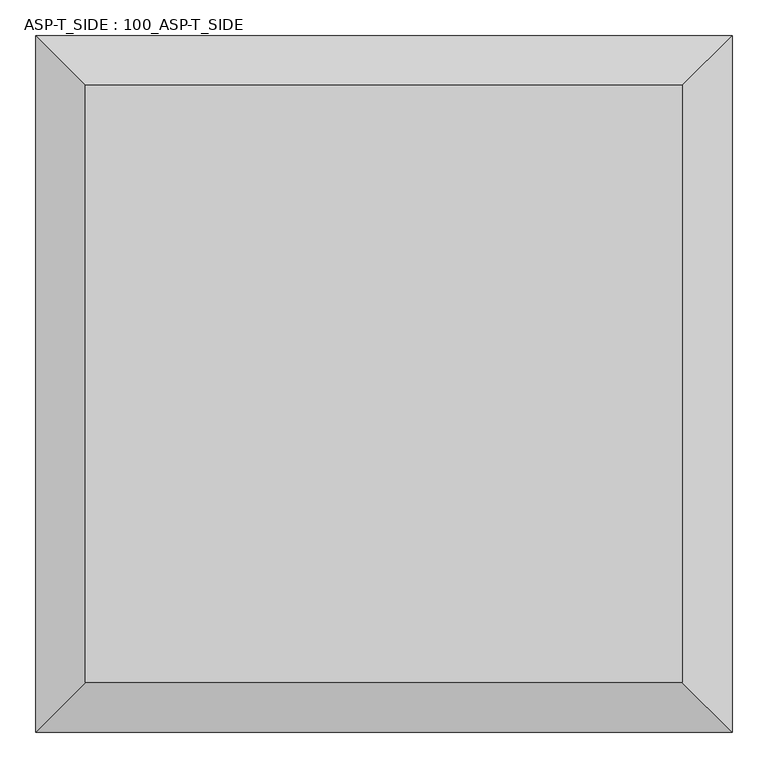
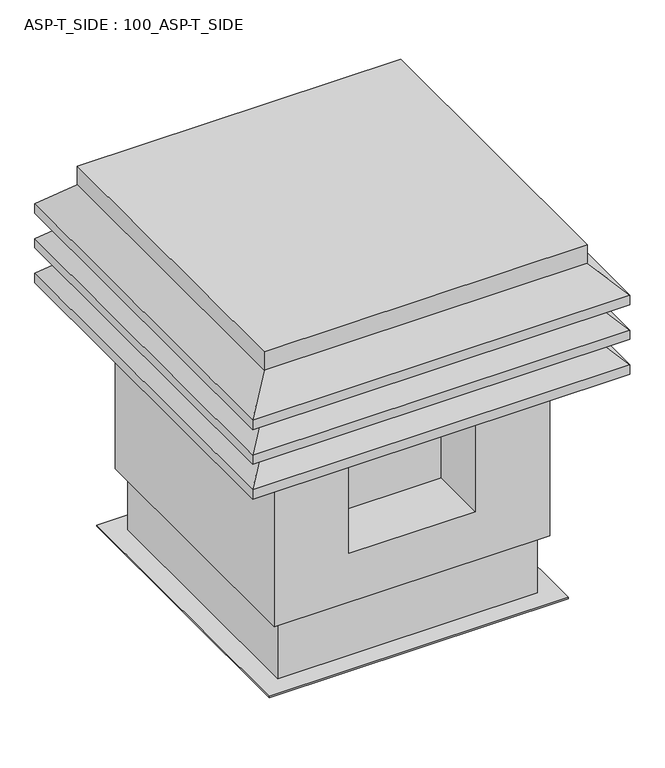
"""IFC4 building model written with IfcOpenShell, lengths in millimetres: proxy geometry, ASP-T_SIDE : 100_ASP-T_SIDE."""

from ifc_helpers import new_model, si_unit, frame, origin, place, context, project, spatial, polyline, outline, extrude, faceted_brep, source, transform, mapped, element, save


def asp_t_side_100_asp_t_side_c54fa9d1(model_context):
    return source(origin(), model_context, "Body", "SolidModel", [
        extrude(outline(polyline([(397.647472, -387.35), (-377.052528, -387.35), (-377.052528, 387.35), (397.647472, 387.35), (397.647472, -387.35)]), holes=[polyline([(-326.252528, 336.55), (-326.252528, -336.55), (346.847472, -336.55), (346.847472, 336.55), (-326.252528, 336.55)])]), frame((0.0, 0.0, -165.1), z_axis=(0.0, 0.0, 1.0), x_axis=(1.0, 0.0, 0.0)), (0.0, 0.0, 1.0), 3.175),
        extrude(outline(polyline([(-326.252528, 336.55), (346.847472, 336.55), (346.847472, -336.55), (-326.252528, -336.55), (-326.252528, 336.55)]), holes=[polyline([(308.747472, -298.45), (308.747472, 298.45), (-288.152528, 298.45), (-288.152528, -298.45), (308.747472, -298.45)])]), frame((0.0, 0.0, -165.1), z_axis=(0.0, 0.0, 1.0), x_axis=(1.0, 0.0, 0.0)), (0.0, 0.0, 1.0), 241.3),
        faceted_brep([(-408.802528, 419.1, 812.8), (-408.802528, -419.1, 812.8), (429.397472, -419.1, 812.8), (429.397472, 419.1, 812.8), (499.247472, 488.95, 476.25), (499.247472, -488.95, 476.25), (-478.652528, -488.95, 476.25), (-478.652528, 488.95, 476.25), (-478.652528, 488.95, 501.65), (499.247472, 488.95, 501.65), (499.247472, 488.95, 596.9), (499.247472, 488.95, 571.5), (-478.652528, 488.95, 571.5), (-478.652528, 488.95, 596.9), (499.247472, 488.95, 692.15), (499.247472, 488.95, 666.75), (-478.652528, 488.95, 666.75), (-478.652528, 488.95, 692.15), (-478.652528, -488.95, 501.65), (-478.652528, -488.95, 571.5), (-478.652528, -488.95, 596.9), (-478.652528, -488.95, 666.75), (-478.652528, -488.95, 692.15), (499.247472, -488.95, 501.65), (499.247472, -488.95, 571.5), (499.247472, -488.95, 596.9), (499.247472, -488.95, 666.75), (499.247472, -488.95, 692.15), (-408.802528, -419.1, 571.5), (-408.802528, 419.1, 571.5), (429.397472, -419.1, 571.5), (429.397472, 419.1, 571.5), (-408.802528, -419.1, 666.75), (-408.802528, 419.1, 666.75), (429.397472, -419.1, 666.75), (429.397472, 419.1, 666.75), (-408.802528, -419.1, 762.0), (-408.802528, 419.1, 762.0), (429.397472, -419.1, 762.0), (429.397472, 419.1, 762.0)], [[[0, 1, 2, 3]], [[4, 5, 6, 7]], [[4, 7, 8, 9]], [[10, 11, 12, 13]], [[14, 15, 16, 17]], [[7, 6, 18, 8]], [[13, 12, 19, 20]], [[17, 16, 21, 22]], [[6, 5, 23, 18]], [[20, 19, 24, 25]], [[22, 21, 26, 27]], [[5, 4, 9, 23]], [[24, 11, 10, 25]], [[26, 15, 14, 27]], [[8, 18, 28, 29]], [[12, 11, 24, 19], [28, 30, 31, 29]], [[13, 20, 32, 33]], [[16, 15, 26, 21], [32, 34, 35, 33]], [[17, 22, 36, 37]], [[1, 0, 37, 36]], [[23, 9, 31, 30]], [[25, 10, 35, 34]], [[3, 2, 38, 39]], [[27, 14, 39, 38]], [[30, 28, 18, 23]], [[34, 32, 20, 25]], [[38, 36, 22, 27]], [[36, 38, 2, 1]], [[29, 31, 9, 8]], [[33, 35, 10, 13]], [[37, 39, 14, 17]], [[39, 37, 0, 3]]]),
        faceted_brep([(367.484972, 357.1875, 476.25), (-346.890028, 357.1875, 476.25), (-346.890028, -357.1875, 476.25), (367.484972, -357.1875, 476.25), (367.484972, 357.1875, 0.0), (367.484972, -357.1875, 0.0), (-346.890028, -357.1875, 0.0), (-346.890028, 357.1875, 0.0), (364.309972, 354.0125, 0.0), (-343.715028, 354.0125, 0.0), (-343.715028, -354.0125, 0.0), (364.309972, -354.0125, 0.0), (173.809972, -357.1875, 419.1), (173.809972, -357.1875, 133.35), (-153.215028, -357.1875, 133.35), (-153.215028, -357.1875, 419.1), (364.309972, 354.0125, 76.2), (364.309972, -354.0125, 76.2), (-343.715028, -354.0125, 76.2), (-343.715028, 354.0125, 76.2), (173.809972, -204.7875, 419.1), (-153.215028, -204.7875, 419.1), (-153.215028, -204.7875, 133.35), (173.809972, -204.7875, 133.35)], [[[0, 1, 2, 3]], [[4, 5, 6, 7], [8, 9, 10, 11]], [[1, 0, 4, 7]], [[2, 1, 7, 6]], [[3, 2, 6, 5], [12, 13, 14, 15]], [[0, 3, 5, 4]], [[16, 17, 18, 19]], [[16, 19, 9, 8]], [[19, 18, 10, 9]], [[18, 17, 11, 10]], [[17, 16, 8, 11]], [[20, 21, 22, 23]], [[20, 23, 13, 12]], [[23, 22, 14, 13]], [[22, 21, 15, 14]], [[21, 20, 12, 15]]]),
    ])


if __name__ == "__main__":
    model = new_model("IFC4")
    model_context = context("Model", 3, world=origin())
    ifc_project = project(units=[si_unit("LENGTHUNIT", "METRE", prefix="MILLI")], contexts=[model_context])
    site = spatial("IfcSite", under=ifc_project)
    building = spatial("IfcBuilding", under=site)
    placement = place(None, origin())
    asp_t_side_100_asp_t_side_shape = asp_t_side_100_asp_t_side_c54fa9d1(model_context)
    element("IfcBuildingElementProxy", 1, Name="ASP-T_SIDE : 100_ASP-T_SIDE", ObjectType="ASP-T_SIDE : 100_ASP-T_SIDE", at=placement, inside=building, context=model_context, shape_type="MappedRepresentation", body=[
        mapped(asp_t_side_100_asp_t_side_shape, transform((0.0, 0.0, 0.0), x_axis=(1.0, 0.0, 0.0), y_axis=(0.0, 1.0, 0.0), z_axis=(0.0, 0.0, 1.0))),
    ])
    save(model, "model.ifc")
